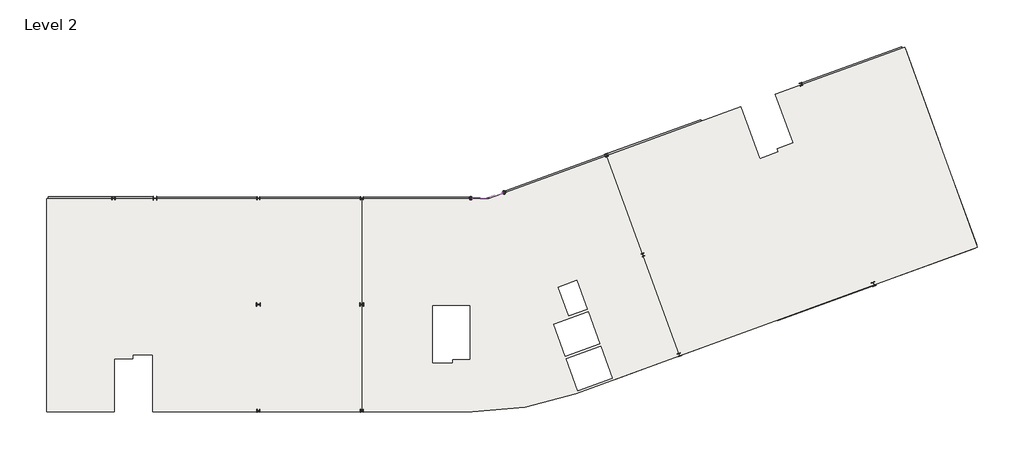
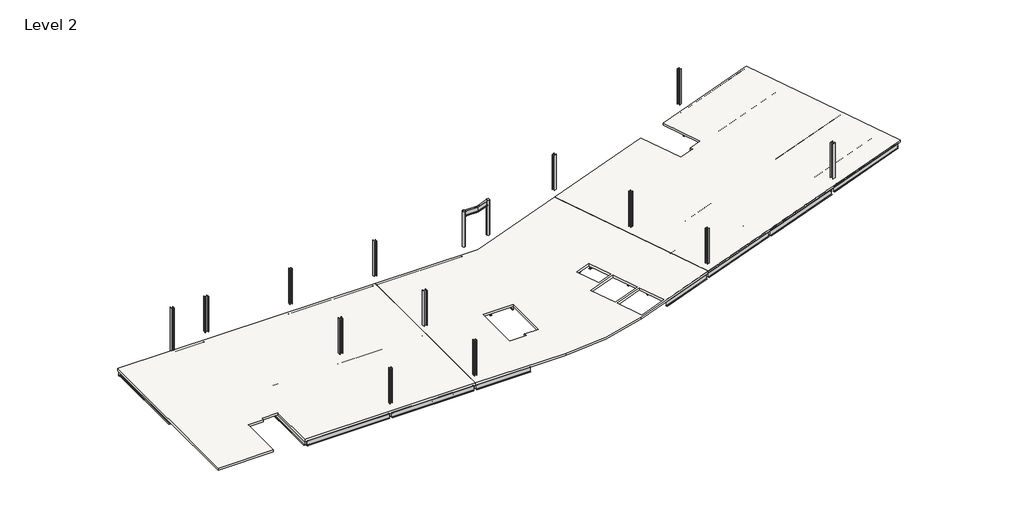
# One storey: 87 beams, 15 columns, 1 slab.
"""IFC4 building model written with IfcOpenShell, lengths in millimetres."""

from ifc_helpers import new_model, si_unit, point, frame, frame_2d, origin, place, context, project, spatial, polyline, circle_curve, trimmed, segment, composite_curve, outline, extrude, faceted_brep, transform, mapped, element, save
from components import beam_fb4f222d, ub_universal_beams_e915e172, ub_universal_beams_a95554c7, ub_universal_beams_b6dbdd7a, ub_universal_beams_9ada3ad7, ub_universal_beams_885cc86f, ub_universal_beams_c84566a2, ub_universal_beams_4841b023, ub_universal_beams_20791346, ub_universal_beams_18d3feb0, ub_universal_beams_59459dd6, ub_universal_beams_568b5c51, ub_universal_beams_e00400c9, ub_universal_beams_f823aa85, ub_universal_beams_cdbcbb51, ub_universal_beams_2db27d90, ub_universal_beams_feb0265b, ub_universal_beams_78ad538f, ub_universal_beams_801fcbf0, ub_universal_beams_7192e0ee, ub_universal_beams_e0a47d06, ub_universal_beams_f5dc209c, ub_universal_beams_f862a4b8, ub_universal_beams_0fc11a2d, ub_universal_beams_656765b2, ub_universal_beams_21f5ef47, ub_universal_beams_7b4bcd9a, ub_universal_beams_8d1efc97, ub_universal_beams_2b7a043a, ub_universal_beams_8d2b0bf5, ub_universal_beams_37de3949, ub_universal_beams_43212cfb, ub_universal_beams_777f85ab, ub_universal_beams_8ec85ef7, ub_universal_beams_16a75a32, ub_universal_beams_b9a7bbe5, ub_universal_beams_60794b88, ub_universal_beams_0c249d50, ub_universal_beams_892b370d, ub_universal_beams_25e113f4, ub_universal_beams_813faa96, ub_universal_beams_bf94d013, ub_universal_beams_c91190e6, column_55d45f16, uc_universal_columns_column_67913ea7, uc_universal_columns_column_df0e8a14

model = new_model("IFC4")

# Units and contexts
model_context = context("Model", 3, world=origin())
ifc_project = project(units=[si_unit("LENGTHUNIT", "METRE", prefix="MILLI")], contexts=[model_context])

# Site, building, storey
site = spatial("IfcSite", under=ifc_project)
building = spatial("IfcBuilding", under=site)
storey = spatial("IfcBuildingStorey", under=building, Name="Level 2", Elevation=7595.0)

# Beams
placement = place(None, origin())
beam_shape = beam_fb4f222d(model_context)
element("IfcBeam", 1, ObjectType="Cranked Beam B3 : Cranked Beam B1", at=placement, inside=storey, context=model_context, shape_type="MappedRepresentation", body=[
    mapped(beam_shape, transform((0.0, 0.0, 0.0), x_axis=(1.0, 0.0, 0.0), y_axis=(0.0, 1.0, 0.0), z_axis=(0.0, 0.0, 1.0))),
])
ub_universal_beams_shape = ub_universal_beams_e915e172(model_context)
element("IfcBeam", 2, ObjectType="UB-Universal Beams : UB 18\" x 6\" x 2 1/2\"", at=placement, inside=storey, context=model_context, shape_type="MappedRepresentation", body=[
    mapped(ub_universal_beams_shape, transform((11712.2000023, 15363.2000005, 7366.0), x_axis=(1.0, 0.0, 0.0), y_axis=(0.0, 1.0, 0.0), z_axis=(0.0, 0.0, 1.0))),
])
ub_universal_beams_2_shape = ub_universal_beams_a95554c7(model_context)
element("IfcBeam", 3, ObjectType="UB-Universal Beams : UB 18\" x 6\" x 2 1/2\"", at=placement, inside=storey, context=model_context, shape_type="MappedRepresentation", body=[
    mapped(ub_universal_beams_2_shape, transform((19012.2000023, 15363.2000005, 7366.0), x_axis=(1.0, 0.0, 0.0), y_axis=(0.0, 1.0, 0.0), z_axis=(0.0, 0.0, 1.0))),
])
element("IfcBeam", 4, ObjectType="UB-Universal Beams : UB 18\" x 6\" x 2 1/2\"", at=placement, inside=storey, context=model_context, shape_type="MappedRepresentation", body=[
    mapped(ub_universal_beams_2_shape, transform((19012.2000022, 363.2000005, 7366.0), x_axis=(1.0, 0.0, 0.0), y_axis=(0.0, 1.0, 0.0), z_axis=(0.0, 0.0, 1.0))),
])
ub_universal_beams_3_shape = ub_universal_beams_b6dbdd7a(model_context)
element("IfcBeam", 5, ObjectType="UB-Universal Beams : UB 18\" x 6\" x 2 1/2\"", at=placement, inside=storey, context=model_context, shape_type="MappedRepresentation", body=[
    mapped(ub_universal_beams_3_shape, transform((26512.2000022, 15363.2000005, 7366.0), x_axis=(1.0, 0.0, 0.0), y_axis=(0.0, 1.0, 0.0), z_axis=(0.0, 0.0, 1.0))),
])
ub_universal_beams_4_shape = ub_universal_beams_9ada3ad7(model_context)
element("IfcBeam", 6, ObjectType="UB-Universal Beams : UB 18\" x 6\" x 2 1/2\"", at=placement, inside=storey, context=model_context, shape_type="MappedRepresentation", body=[
    mapped(ub_universal_beams_4_shape, transform((11674.7000023, 7863.2000004, 7366.0), x_axis=(-1.0, 0.0, 0.0), y_axis=(0.0, -1.0, 0.0), z_axis=(0.0, 0.0, 1.0))),
])
ub_universal_beams_5_shape = ub_universal_beams_885cc86f(model_context)
element("IfcBeam", 7, ObjectType="UB-Universal Beams : UB 18\" x 6\" x 2 1/2\"", at=placement, inside=storey, context=model_context, shape_type="MappedRepresentation", body=[
    mapped(ub_universal_beams_5_shape, transform((11674.7000023, 363.2000005, 7366.0), x_axis=(-1.0, 0.0, 0.0), y_axis=(0.0, -1.0, 0.0), z_axis=(0.0, 0.0, 1.0))),
])
ub_universal_beams_6_shape = ub_universal_beams_c84566a2(model_context)
element("IfcBeam", 8, ObjectType="UB-Universal Beams : UB 18\" x 6\" x 2 1/2\"", at=placement, inside=storey, context=model_context, shape_type="MappedRepresentation", body=[
    mapped(ub_universal_beams_6_shape, transform((19012.2000023, 7863.2000004, 7366.0), x_axis=(1.0, 0.0, 0.0), y_axis=(0.0, 1.0, 0.0), z_axis=(0.0, 0.0, 1.0))),
])
ub_universal_beams_7_shape = ub_universal_beams_4841b023(model_context)
element("IfcBeam", 9, ObjectType="UB-Universal Beams : UB 18\" x 6\" x 2 1/2\"", at=placement, inside=storey, context=model_context, shape_type="MappedRepresentation", body=[
    mapped(ub_universal_beams_7_shape, transform((25112.2000025, 7863.2000004, 7366.0), x_axis=(1.0, 0.0, 0.0), y_axis=(0.0, 1.0, 0.0), z_axis=(0.0, 0.0, 1.0))),
])
ub_universal_beams_8_shape = ub_universal_beams_20791346(model_context)
element("IfcBeam", 10, ObjectType="UB-Universal Beams : UB 18\" x 6\" x 2 1/2\"", at=placement, inside=storey, context=model_context, shape_type="MappedRepresentation", body=[
    mapped(ub_universal_beams_8_shape, transform((25112.2000025, 363.2000005, 7366.0), x_axis=(1.0, 0.0, 0.0), y_axis=(0.0, 1.0, 0.0), z_axis=(0.0, 0.0, 1.0))),
])
ub_universal_beams_9_shape = ub_universal_beams_18d3feb0(model_context)
element("IfcBeam", 11, ObjectType="UB-Universal Beams : UB 18\" x 6\" x 2 1/2\"", at=placement, inside=storey, context=model_context, shape_type="MappedRepresentation", body=[
    mapped(ub_universal_beams_9_shape, transform((8062.2000022, 11613.2000005, 7366.0), x_axis=(0.0, 1.0, 0.0), y_axis=(-1.0, 0.0, 0.0), z_axis=(0.0, 0.0, 1.0))),
])
ub_universal_beams_10_shape = ub_universal_beams_59459dd6(model_context)
element("IfcBeam", 12, ObjectType="UB-Universal Beams : UB 18\" x 6\" x 2 1/2\"", at=placement, inside=storey, context=model_context, shape_type="MappedRepresentation", body=[
    mapped(ub_universal_beams_10_shape, transform((15362.2000023, 4113.2000005, 7366.0), x_axis=(0.0, 1.0, 0.0), y_axis=(-1.0, 0.0, 0.0), z_axis=(0.0, 0.0, 1.0))),
])
element("IfcBeam", 13, ObjectType="UB-Universal Beams : UB 18\" x 6\" x 2 1/2\"", at=placement, inside=storey, context=model_context, shape_type="MappedRepresentation", body=[
    mapped(ub_universal_beams_10_shape, transform((22662.2000022, 4113.2000005, 7366.0), x_axis=(0.0, 1.0, 0.0), y_axis=(-1.0, 0.0, 0.0), z_axis=(0.0, 0.0, 1.0))),
])
ub_universal_beams_11_shape = ub_universal_beams_568b5c51(model_context)
element("IfcBeam", 14, ObjectType="UB-Universal Beams : UB 18\" x 6\" x 2 1/2\"", at=placement, inside=storey, context=model_context, shape_type="MappedRepresentation", body=[
    mapped(ub_universal_beams_11_shape, transform((15362.2000023, 11613.2000005, 7366.0), x_axis=(0.0, 1.0, 0.0), y_axis=(-1.0, 0.0, 0.0), z_axis=(0.0, 0.0, 1.0))),
])
element("IfcBeam", 15, ObjectType="UB-Universal Beams : UB 18\" x 6\" x 2 1/2\"", at=placement, inside=storey, context=model_context, shape_type="MappedRepresentation", body=[
    mapped(ub_universal_beams_11_shape, transform((22662.2000022, 11613.2000005, 7366.0), x_axis=(0.0, 1.0, 0.0), y_axis=(-1.0, 0.0, 0.0), z_axis=(0.0, 0.0, 1.0))),
])
ub_universal_beams_12_shape = ub_universal_beams_e00400c9(model_context)
element("IfcBeam", 16, ObjectType="UB-Universal Beams : UB 18\" x 6\" x 2 1/2\"", at=placement, inside=storey, context=model_context, shape_type="MappedRepresentation", body=[
    mapped(ub_universal_beams_12_shape, transform((30362.2000022, 11613.2000005, 7366.0), x_axis=(0.0, 1.0, 0.0), y_axis=(-1.0, 0.0, 0.0), z_axis=(0.0, 0.0, 1.0))),
])
ub_universal_beams_13_shape = ub_universal_beams_f823aa85(model_context)
element("IfcBeam", 17, ObjectType="UB-Universal Beams : UB 12\" x 5\" x 1 1/2\"", at=placement, inside=storey, context=model_context, shape_type="MappedRepresentation", body=[
    mapped(ub_universal_beams_13_shape, transform((9887.2000022, 11613.2000005, 7442.8), x_axis=(0.0, 1.0, 0.0), y_axis=(-1.0, 0.0, 0.0), z_axis=(0.0, 0.0, 1.0))),
])
element("IfcBeam", 18, ObjectType="UB-Universal Beams : UB 12\" x 5\" x 1 1/2\"", at=placement, inside=storey, context=model_context, shape_type="MappedRepresentation", body=[
    mapped(ub_universal_beams_13_shape, transform((11712.2000022, 11613.2000005, 7442.8), x_axis=(0.0, 1.0, 0.0), y_axis=(-1.0, 0.0, 0.0), z_axis=(0.0, 0.0, 1.0))),
])
element("IfcBeam", 19, ObjectType="UB-Universal Beams : UB 12\" x 5\" x 1 1/2\"", at=placement, inside=storey, context=model_context, shape_type="MappedRepresentation", body=[
    mapped(ub_universal_beams_13_shape, transform((13537.2000023, 11613.2000005, 7442.8), x_axis=(0.0, 1.0, 0.0), y_axis=(-1.0, 0.0, 0.0), z_axis=(0.0, 0.0, 1.0))),
])
element("IfcBeam", 20, ObjectType="UB-Universal Beams : UB 12\" x 5\" x 1 1/2\"", at=placement, inside=storey, context=model_context, shape_type="MappedRepresentation", body=[
    mapped(ub_universal_beams_13_shape, transform((17187.2000023, 11613.2000005, 7442.8), x_axis=(0.0, 1.0, 0.0), y_axis=(-1.0, 0.0, 0.0), z_axis=(0.0, 0.0, 1.0))),
])
element("IfcBeam", 21, ObjectType="UB-Universal Beams : UB 12\" x 5\" x 1 1/2\"", at=placement, inside=storey, context=model_context, shape_type="MappedRepresentation", body=[
    mapped(ub_universal_beams_13_shape, transform((19012.2000023, 11613.2000005, 7442.8), x_axis=(0.0, 1.0, 0.0), y_axis=(-1.0, 0.0, 0.0), z_axis=(0.0, 0.0, 1.0))),
])
element("IfcBeam", 22, ObjectType="UB-Universal Beams : UB 12\" x 5\" x 1 1/2\"", at=placement, inside=storey, context=model_context, shape_type="MappedRepresentation", body=[
    mapped(ub_universal_beams_13_shape, transform((20837.2000022, 11613.2000005, 7442.8), x_axis=(0.0, 1.0, 0.0), y_axis=(-1.0, 0.0, 0.0), z_axis=(0.0, 0.0, 1.0))),
])
element("IfcBeam", 23, ObjectType="UB-Universal Beams : UB 12\" x 5\" x 1 1/2\"", at=placement, inside=storey, context=model_context, shape_type="MappedRepresentation", body=[
    mapped(ub_universal_beams_13_shape, transform((24587.2000022, 11613.2000005, 7442.8), x_axis=(0.0, 1.0, 0.0), y_axis=(-1.0, 0.0, 0.0), z_axis=(0.0, 0.0, 1.0))),
])
element("IfcBeam", 24, ObjectType="UB-Universal Beams : UB 12\" x 5\" x 1 1/2\"", at=placement, inside=storey, context=model_context, shape_type="MappedRepresentation", body=[
    mapped(ub_universal_beams_13_shape, transform((26512.2000022, 11613.2000005, 7442.8), x_axis=(0.0, 1.0, 0.0), y_axis=(-1.0, 0.0, 0.0), z_axis=(0.0, 0.0, 1.0))),
])
element("IfcBeam", 25, ObjectType="UB-Universal Beams : UB 12\" x 5\" x 1 1/2\"", at=placement, inside=storey, context=model_context, shape_type="MappedRepresentation", body=[
    mapped(ub_universal_beams_13_shape, transform((17187.2000022, 4113.2000005, 7442.8), x_axis=(0.0, 1.0, 0.0), y_axis=(-1.0, 0.0, 0.0), z_axis=(0.0, 0.0, 1.0))),
])
element("IfcBeam", 26, ObjectType="UB-Universal Beams : UB 12\" x 5\" x 1 1/2\"", at=placement, inside=storey, context=model_context, shape_type="MappedRepresentation", body=[
    mapped(ub_universal_beams_13_shape, transform((19012.2000022, 4113.2000005, 7442.8), x_axis=(0.0, 1.0, 0.0), y_axis=(-1.0, 0.0, 0.0), z_axis=(0.0, 0.0, 1.0))),
])
element("IfcBeam", 27, ObjectType="UB-Universal Beams : UB 12\" x 5\" x 1 1/2\"", at=placement, inside=storey, context=model_context, shape_type="MappedRepresentation", body=[
    mapped(ub_universal_beams_13_shape, transform((20837.2000022, 4113.2000005, 7442.8), x_axis=(0.0, 1.0, 0.0), y_axis=(-1.0, 0.0, 0.0), z_axis=(0.0, 0.0, 1.0))),
])
element("IfcBeam", 28, ObjectType="UB-Universal Beams : UB 12\" x 5\" x 1 1/2\"", at=placement, inside=storey, context=model_context, shape_type="MappedRepresentation", body=[
    mapped(ub_universal_beams_13_shape, transform((24587.2000022, 4113.2000004, 7442.8), x_axis=(0.0, 1.0, 0.0), y_axis=(-1.0, 0.0, 0.0), z_axis=(0.0, 0.0, 1.0))),
])
element("IfcBeam", 29, ObjectType="UB-Universal Beams : UB 12\" x 5\" x 1 1/2\"", at=placement, inside=storey, context=model_context, shape_type="MappedRepresentation", body=[
    mapped(ub_universal_beams_13_shape, transform((26512.2000022, 4113.2000004, 7442.8), x_axis=(0.0, 1.0, 0.0), y_axis=(-1.0, 0.0, 0.0), z_axis=(0.0, 0.0, 1.0))),
])
element("IfcBeam", 30, ObjectType="UB-Universal Beams : UB 12\" x 5\" x 1 1/2\"", at=placement, inside=storey, context=model_context, shape_type="MappedRepresentation", body=[
    mapped(ub_universal_beams_13_shape, transform((39409.0148654, 14226.6858637, 7442.8), x_axis=(0.34202014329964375, -0.9396926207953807, 0.0), y_axis=(0.9396926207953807, 0.34202014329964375, 0.0), z_axis=(0.0, 0.0, 1.0))),
])
element("IfcBeam", 31, ObjectType="UB-Universal Beams : UB 12\" x 5\" x 1 1/2\"", at=placement, inside=storey, context=model_context, shape_type="MappedRepresentation", body=[
    mapped(ub_universal_beams_13_shape, transform((37600.1065704, 13568.2970878, 7442.8), x_axis=(0.34202014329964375, -0.9396926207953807, 0.0), y_axis=(0.9396926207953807, 0.34202014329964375, 0.0), z_axis=(0.0, 0.0, 1.0))),
])
element("IfcBeam", 32, ObjectType="UB-Universal Beams : UB 12\" x 5\" x 1 1/2\"", at=placement, inside=storey, context=model_context, shape_type="MappedRepresentation", body=[
    mapped(ub_universal_beams_13_shape, transform((42915.2429568, 15502.8485233, 7442.8), x_axis=(-0.3420201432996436, 0.9396926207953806, 0.0), y_axis=(-0.9396926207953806, -0.3420201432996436, 0.0), z_axis=(0.0, 0.0, 1.0))),
])
element("IfcBeam", 33, ObjectType="UB-Universal Beams : UB 12\" x 5\" x 1 1/2\"", at=placement, inside=storey, context=model_context, shape_type="MappedRepresentation", body=[
    mapped(ub_universal_beams_13_shape, transform((44612.5627531, 16120.6224071, 7442.8), x_axis=(-0.34202014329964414, 0.9396926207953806, 0.0), y_axis=(-0.9396926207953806, -0.34202014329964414, 0.0), z_axis=(0.0, 0.0, 1.0))),
])
element("IfcBeam", 34, ObjectType="UB-Universal Beams : UB 12\" x 5\" x 1 1/2\"", at=placement, inside=storey, context=model_context, shape_type="MappedRepresentation", body=[
    mapped(ub_universal_beams_13_shape, transform((46309.8825494, 16738.396291, 7442.8), x_axis=(-0.34202014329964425, 0.9396926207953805, 0.0), y_axis=(-0.9396926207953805, -0.34202014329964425, 0.0), z_axis=(0.0, 0.0, 1.0))),
])
ub_universal_beams_14_shape = ub_universal_beams_cdbcbb51(model_context)
element("IfcBeam", 35, ObjectType="UB-Universal Beams : UB 12\" x 5\" x 1 1/2\"", at=placement, inside=storey, context=model_context, shape_type="MappedRepresentation", body=[
    mapped(ub_universal_beams_14_shape, transform((28437.2000022, 11613.2000005, 7442.8), x_axis=(0.0, 1.0, 0.0), y_axis=(-1.0, 0.0, 0.0), z_axis=(0.0, 0.0, 1.0))),
])
ub_universal_beams_15_shape = ub_universal_beams_2db27d90(model_context)
element("IfcBeam", 36, ObjectType="UB-Universal Beams : UB 18\" x 6\" x 2 1/2\"", at=placement, inside=storey, context=model_context, shape_type="MappedRepresentation", body=[
    mapped(ub_universal_beams_15_shape, transform((33982.2899804, 12251.5195361, 7366.0), x_axis=(0.3420201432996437, -0.9396926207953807, 0.0), y_axis=(0.9396926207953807, 0.3420201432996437, 0.0), z_axis=(0.0, 0.0, 1.0))),
])
ub_universal_beams_16_shape = ub_universal_beams_feb0265b(model_context)
element("IfcBeam", 37, ObjectType="UB-Universal Beams : UB 18\" x 6\" x 2 1/2\"", at=placement, inside=storey, context=model_context, shape_type="MappedRepresentation", body=[
    mapped(ub_universal_beams_16_shape, transform((32191.7898055, 11821.5156209, 7366.0), x_axis=(0.173648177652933, -0.9848077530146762, 0.0), y_axis=(0.9848077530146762, 0.173648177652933, 0.0), z_axis=(0.0, 0.0, 1.0))),
])
ub_universal_beams_17_shape = ub_universal_beams_78ad538f(model_context)
element("IfcBeam", 38, ObjectType="UB-Universal Beams : UB 18\" x 6\" x 2 1/2\"", at=placement, inside=storey, context=model_context, shape_type="MappedRepresentation", body=[
    mapped(ub_universal_beams_17_shape, transform((31317.5755278, 11361.2273115, 7366.0), x_axis=(1.0, 0.0, 0.0), y_axis=(0.0, 1.0, 0.0), z_axis=(0.0, 0.0, 1.0))),
])
ub_universal_beams_18_shape = ub_universal_beams_801fcbf0(model_context)
element("IfcBeam", 39, ObjectType="UB-Universal Beams : UB 18\" x 6\" x 2 1/2\"", at=placement, inside=storey, context=model_context, shape_type="MappedRepresentation", body=[
    mapped(ub_universal_beams_18_shape, transform((33170.7103845, 11687.9849855, 7366.0), x_axis=(0.9396926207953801, 0.3420201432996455, 0.0), y_axis=(-0.3420201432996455, 0.9396926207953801, 0.0), z_axis=(0.0, 0.0, 1.0))),
])
ub_universal_beams_19_shape = ub_universal_beams_7192e0ee(model_context)
element("IfcBeam", 40, ObjectType="UB-Universal Beams : UB 18\" x 6\" x 2 1/2\"", at=placement, inside=storey, context=model_context, shape_type="MappedRepresentation", body=[
    mapped(ub_universal_beams_19_shape, transform((43329.9872158, 19644.4697351, 7366.0), x_axis=(0.9396926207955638, 0.3420201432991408, 0.0), y_axis=(-0.3420201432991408, 0.9396926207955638, 0.0), z_axis=(0.0, 0.0, 1.0))),
])
element("IfcBeam", 41, ObjectType="UB-Universal Beams : UB 18\" x 6\" x 2 1/2\"", at=placement, inside=storey, context=model_context, shape_type="MappedRepresentation", body=[
    mapped(ub_universal_beams_19_shape, transform((45895.1382905, 12596.7750792, 7366.0), x_axis=(0.9396926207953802, 0.34202014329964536, 0.0), y_axis=(-0.34202014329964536, 0.9396926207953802, 0.0), z_axis=(0.0, 0.0, 1.0))),
])
element("IfcBeam", 42, ObjectType="UB-Universal Beams : UB 18\" x 6\" x 2 1/2\"", at=placement, inside=storey, context=model_context, shape_type="MappedRepresentation", body=[
    mapped(ub_universal_beams_19_shape, transform((48460.2893652, 5549.0804232, 7366.0), x_axis=(0.9396926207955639, 0.3420201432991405, 0.0), y_axis=(-0.3420201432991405, 0.9396926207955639, 0.0), z_axis=(0.0, 0.0, 1.0))),
])
ub_universal_beams_20_shape = ub_universal_beams_e0a47d06(model_context)
element("IfcBeam", 43, ObjectType="UB-Universal Beams : UB 18\" x 6\" x 2 1/2\"", at=placement, inside=storey, context=model_context, shape_type="MappedRepresentation", body=[
    mapped(ub_universal_beams_20_shape, transform((40198.2517768, 10523.2779603, 7366.0), x_axis=(0.9396926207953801, 0.34202014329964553, 0.0), y_axis=(-0.34202014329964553, 0.9396926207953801, 0.0), z_axis=(0.0, 0.0, 1.0))),
])
ub_universal_beams_21_shape = ub_universal_beams_f5dc209c(model_context)
element("IfcBeam", 44, ObjectType="UB-Universal Beams : UB 18\" x 6\" x 2 1/2\"", at=placement, inside=storey, context=model_context, shape_type="MappedRepresentation", body=[
    mapped(ub_universal_beams_21_shape, transform((41217.9231605, 14885.0746394, 7366.0), x_axis=(-0.3420201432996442, 0.9396926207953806, 0.0), y_axis=(-0.9396926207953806, -0.3420201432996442, 0.0), z_axis=(0.0, 0.0, 1.0))),
])
element("IfcBeam", 45, ObjectType="UB-Universal Beams : UB 18\" x 6\" x 2 1/2\"", at=placement, inside=storey, context=model_context, shape_type="MappedRepresentation", body=[
    mapped(ub_universal_beams_21_shape, transform((43783.0742352, 7837.3799835, 7366.0), x_axis=(-0.3420201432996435, 0.939692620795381, 0.0), y_axis=(-0.939692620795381, -0.3420201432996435, 0.0), z_axis=(0.0, 0.0, 1.0))),
])
ub_universal_beams_22_shape = ub_universal_beams_f862a4b8(model_context)
element("IfcBeam", 46, ObjectType="UB-Universal Beams : UB 18\" x 6\" x 2 1/2\"", at=placement, inside=storey, context=model_context, shape_type="MappedRepresentation", body=[
    mapped(ub_universal_beams_22_shape, transform((42763.4028515, 3475.5833044, 7366.0), x_axis=(-0.9396926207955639, -0.34202014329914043, 0.0), y_axis=(0.34202014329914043, -0.9396926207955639, 0.0), z_axis=(0.0, 0.0, 1.0))),
])
ub_universal_beams_23_shape = ub_universal_beams_0fc11a2d(model_context)
element("IfcBeam", 47, ObjectType="UB-Universal Beams : UB 20 1/2\" x 8 1/2\" x 3 1/2\"", at=placement, inside=storey, context=model_context, shape_type="MappedRepresentation", body=[
    mapped(ub_universal_beams_23_shape, transform((55320.045497, 8045.8274693, 7330.85), x_axis=(0.9396926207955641, 0.3420201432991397, 0.0), y_axis=(-0.3420201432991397, 0.9396926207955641, 0.0), z_axis=(0.0, 0.0, 1.0))),
])
ub_universal_beams_24_shape = ub_universal_beams_656765b2(model_context)
element("IfcBeam", 48, ObjectType="UB-Universal Beams : UB 18\" x 6\" x 2 1/2\"", at=placement, inside=storey, context=model_context, shape_type="MappedRepresentation", body=[
    mapped(ub_universal_beams_24_shape, transform((62402.9786263, 10623.8042994, 7366.0), x_axis=(0.9396926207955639, 0.34202014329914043, 0.0), y_axis=(-0.34202014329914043, 0.9396926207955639, 0.0), z_axis=(0.0, 0.0, 1.0))),
])
element("IfcBeam", 49, ObjectType="UB-Universal Beams : UB 18\" x 6\" x 2 1/2\"", at=placement, inside=storey, context=model_context, shape_type="MappedRepresentation", body=[
    mapped(ub_universal_beams_21_shape, transform((64738.219679, 15464.4291791, 7366.0), x_axis=(-0.34202014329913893, 0.9396926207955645, 0.0), y_axis=(-0.9396926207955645, -0.34202014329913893, 0.0), z_axis=(0.0, 0.0, 1.0))),
])
element("IfcBeam", 50, ObjectType="UB-Universal Beams : UB 18\" x 6\" x 2 1/2\"", at=placement, inside=storey, context=model_context, shape_type="MappedRepresentation", body=[
    mapped(ub_universal_beams_21_shape, transform((62173.0686043, 22512.123835, 7366.0), x_axis=(-0.3420201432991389, 0.9396926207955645, 0.0), y_axis=(-0.9396926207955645, -0.3420201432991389, 0.0), z_axis=(0.0, 0.0, 1.0))),
])
ub_universal_beams_25_shape = ub_universal_beams_21f5ef47(model_context)
element("IfcBeam", 51, ObjectType="UB-Universal Beams : UB 18\" x 6\" x 2 1/2\"", at=placement, inside=storey, context=model_context, shape_type="MappedRepresentation", body=[
    mapped(ub_universal_beams_25_shape, transform((57272.6764768, 24719.1936113, 7366.0), x_axis=(-0.9396926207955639, -0.3420201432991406, 0.0), y_axis=(0.3420201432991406, -0.9396926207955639, 0.0), z_axis=(0.0, 0.0, 1.0))),
])
ub_universal_beams_26_shape = ub_universal_beams_7b4bcd9a(model_context)
element("IfcBeam", 52, ObjectType="UB-Universal Beams : UB 18\" x 6\" x 2 1/2\"", at=placement, inside=storey, context=model_context, shape_type="MappedRepresentation", body=[
    mapped(ub_universal_beams_26_shape, transform((54937.4354241, 19878.5687316, 7366.0), x_axis=(-0.3420201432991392, 0.9396926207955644, 0.0), y_axis=(-0.9396926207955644, -0.3420201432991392, 0.0), z_axis=(0.0, 0.0, 1.0))),
])
ub_universal_beams_27_shape = ub_universal_beams_8d1efc97(model_context)
element("IfcBeam", 53, ObjectType="UB-Universal Beams : UB 12\" x 5\" x 1 1/2\"", at=placement, inside=storey, context=model_context, shape_type="MappedRepresentation", body=[
    mapped(ub_universal_beams_27_shape, transform((35791.1982754, 12909.908312, 7442.8), x_axis=(0.3420201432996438, -0.9396926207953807, 0.0), y_axis=(0.9396926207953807, 0.3420201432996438, 0.0), z_axis=(0.0, 0.0, 1.0))),
])
ub_universal_beams_28_shape = ub_universal_beams_2b7a043a(model_context)
element("IfcBeam", 54, ObjectType="UB-Universal Beams : UB 12\" x 5\" x 1 1/2\"", at=placement, inside=storey, context=model_context, shape_type="MappedRepresentation", body=[
    mapped(ub_universal_beams_28_shape, transform((42122.1150828, 5237.5069684, 7442.8), x_axis=(-0.939692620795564, -0.3420201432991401, 0.0), y_axis=(0.3420201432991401, -0.939692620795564, 0.0), z_axis=(0.0, 0.0, 1.0))),
])
element("IfcBeam", 55, ObjectType="UB-Universal Beams : UB 12\" x 5\" x 1 1/2\"", at=placement, inside=storey, context=model_context, shape_type="MappedRepresentation", body=[
    mapped(ub_universal_beams_28_shape, transform((41480.8273141, 6999.4306323, 7442.8), x_axis=(-0.9396926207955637, -0.3420201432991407, 0.0), y_axis=(0.3420201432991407, -0.9396926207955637, 0.0), z_axis=(0.0, 0.0, 1.0))),
])
element("IfcBeam", 56, ObjectType="UB-Universal Beams : UB 12\" x 5\" x 1 1/2\"", at=placement, inside=storey, context=model_context, shape_type="MappedRepresentation", body=[
    mapped(ub_universal_beams_28_shape, transform((40839.5395455, 8761.3542963, 7442.8), x_axis=(-0.939692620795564, -0.3420201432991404, 0.0), y_axis=(0.3420201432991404, -0.939692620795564, 0.0), z_axis=(0.0, 0.0, 1.0))),
])
ub_universal_beams_29_shape = ub_universal_beams_8d2b0bf5(model_context)
element("IfcBeam", 57, ObjectType="UB-Universal Beams : UB 12\" x 5\" x 1 1/2\"", at=placement, inside=storey, context=model_context, shape_type="MappedRepresentation", body=[
    mapped(ub_universal_beams_29_shape, transform((46536.4260592, 10834.8514152, 7442.8), x_axis=(0.9396926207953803, 0.342020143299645, 0.0), y_axis=(-0.342020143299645, 0.9396926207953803, 0.0), z_axis=(0.0, 0.0, 1.0))),
])
element("IfcBeam", 58, ObjectType="UB-Universal Beams : UB 12\" x 5\" x 1 1/2\"", at=placement, inside=storey, context=model_context, shape_type="MappedRepresentation", body=[
    mapped(ub_universal_beams_29_shape, transform((47177.7138279, 9072.9277512, 7442.8), x_axis=(0.9396926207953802, 0.34202014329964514, 0.0), y_axis=(-0.34202014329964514, 0.9396926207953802, 0.0), z_axis=(0.0, 0.0, 1.0))),
])
element("IfcBeam", 59, ObjectType="UB-Universal Beams : UB 12\" x 5\" x 1 1/2\"", at=placement, inside=storey, context=model_context, shape_type="MappedRepresentation", body=[
    mapped(ub_universal_beams_29_shape, transform((47819.0015966, 7311.0040872, 7442.8), x_axis=(0.9396926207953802, 0.3420201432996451, 0.0), y_axis=(-0.3420201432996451, 0.9396926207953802, 0.0), z_axis=(0.0, 0.0, 1.0))),
])
ub_universal_beams_30_shape = ub_universal_beams_37de3949(model_context)
element("IfcBeam", 60, ObjectType="UB-Universal Beams : UB 18\" x 6\" x 2 1/2\"", at=placement, inside=storey, context=model_context, shape_type="MappedRepresentation", body=[
    mapped(ub_universal_beams_30_shape, transform((59849.5737093, 17675.7742072, 7366.0), x_axis=(0.9396926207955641, 0.3420201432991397, 0.0), y_axis=(-0.3420201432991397, 0.9396926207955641, 0.0), z_axis=(0.0, 0.0, 1.0))),
])
ub_universal_beams_31_shape = ub_universal_beams_43212cfb(model_context)
element("IfcBeam", 61, ObjectType="UB-Universal Beams : UB 18\" x 6\" x 2 1/2\"", at=placement, inside=storey, context=model_context, shape_type="MappedRepresentation", body=[
    mapped(ub_universal_beams_31_shape, transform((57502.5864988, 12830.8740757, 7366.0), x_axis=(0.3420201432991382, -0.9396926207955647, 0.0), y_axis=(0.9396926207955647, 0.3420201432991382, 0.0), z_axis=(0.0, 0.0, 1.0))),
])
ub_universal_beams_32_shape = ub_universal_beams_777f85ab(model_context)
element("IfcBeam", 62, ObjectType="UB-Universal Beams : UB 12\" x 5\" x 1 1/2\"", at=placement, inside=storey, context=model_context, shape_type="MappedRepresentation", body=[
    mapped(ub_universal_beams_32_shape, transform((60479.1153202, 15909.5752914, 7442.8), x_axis=(0.9396926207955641, 0.34202014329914, 0.0), y_axis=(-0.34202014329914, 0.9396926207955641, 0.0), z_axis=(0.0, 0.0, 1.0))),
])
element("IfcBeam", 63, ObjectType="UB-Universal Beams : UB 12\" x 5\" x 1 1/2\"", at=placement, inside=storey, context=model_context, shape_type="MappedRepresentation", body=[
    mapped(ub_universal_beams_32_shape, transform((61120.4030889, 14147.6516274, 7442.8), x_axis=(0.9396926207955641, 0.34202014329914, 0.0), y_axis=(-0.34202014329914, 0.9396926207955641, 0.0), z_axis=(0.0, 0.0, 1.0))),
])
element("IfcBeam", 64, ObjectType="UB-Universal Beams : UB 12\" x 5\" x 1 1/2\"", at=placement, inside=storey, context=model_context, shape_type="MappedRepresentation", body=[
    mapped(ub_universal_beams_32_shape, transform((61761.6908576, 12385.7279634, 7442.8), x_axis=(0.9396926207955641, 0.3420201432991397, 0.0), y_axis=(-0.3420201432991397, 0.9396926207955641, 0.0), z_axis=(0.0, 0.0, 1.0))),
])
element("IfcBeam", 65, ObjectType="UB-Universal Beams : UB 12\" x 5\" x 1 1/2\"", at=placement, inside=storey, context=model_context, shape_type="MappedRepresentation", body=[
    mapped(ub_universal_beams_32_shape, transform((57913.9642455, 22957.2699473, 7442.8), x_axis=(0.9396926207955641, 0.3420201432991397, 0.0), y_axis=(-0.3420201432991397, 0.9396926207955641, 0.0), z_axis=(0.0, 0.0, 1.0))),
])
element("IfcBeam", 66, ObjectType="UB-Universal Beams : UB 12\" x 5\" x 1 1/2\"", at=placement, inside=storey, context=model_context, shape_type="MappedRepresentation", body=[
    mapped(ub_universal_beams_32_shape, transform((58555.2520142, 21195.3462833, 7442.8), x_axis=(0.9396926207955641, 0.3420201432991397, 0.0), y_axis=(-0.3420201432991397, 0.9396926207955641, 0.0), z_axis=(0.0, 0.0, 1.0))),
])
element("IfcBeam", 67, ObjectType="UB-Universal Beams : UB 12\" x 5\" x 1 1/2\"", at=placement, inside=storey, context=model_context, shape_type="MappedRepresentation", body=[
    mapped(ub_universal_beams_32_shape, transform((59196.5397829, 19433.4226193, 7442.8), x_axis=(0.9396926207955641, 0.3420201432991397, 0.0), y_axis=(-0.3420201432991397, 0.9396926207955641, 0.0), z_axis=(0.0, 0.0, 1.0))),
])
ub_universal_beams_33_shape = ub_universal_beams_8ec85ef7(model_context)
element("IfcBeam", 68, ObjectType="UB-Universal Beams : UB 20 1/2\" x 8 1/2\" x 3 1/2\"", at=placement, inside=storey, context=model_context, shape_type="MappedRepresentation", body=[
    mapped(ub_universal_beams_33_shape, transform((54042.3541451, 11665.8982726, 7330.85), x_axis=(-0.34202014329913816, 0.9396926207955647, 0.0), y_axis=(-0.9396926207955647, -0.34202014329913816, 0.0), z_axis=(0.0, 0.0, 1.0))),
])
ub_universal_beams_34_shape = ub_universal_beams_16a75a32(model_context)
element("IfcBeam", 69, ObjectType="UB-Universal Beams : UB 12\" x 5\" x 1 1/2\"", at=placement, inside=storey, context=model_context, shape_type="MappedRepresentation", body=[
    mapped(ub_universal_beams_34_shape, transform((52185.7228693, 11321.365084, 7442.8), x_axis=(0.9396926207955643, 0.3420201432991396, 0.0), y_axis=(-0.3420201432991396, 0.9396926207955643, 0.0), z_axis=(0.0, 0.0, 1.0))),
])
element("IfcBeam", 70, ObjectType="UB-Universal Beams : UB 12\" x 5\" x 1 1/2\"", at=placement, inside=storey, context=model_context, shape_type="MappedRepresentation", body=[
    mapped(ub_universal_beams_34_shape, transform((51681.2431579, 12707.4116997, 7442.8), x_axis=(0.9396926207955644, 0.34202014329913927, 0.0), y_axis=(-0.34202014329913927, 0.9396926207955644, 0.0), z_axis=(0.0, 0.0, 1.0))),
])
ub_universal_beams_35_shape = ub_universal_beams_b9a7bbe5(model_context)
element("IfcBeam", 71, ObjectType="UB-Universal Beams : UB 12\" x 5\" x 1 1/2\"", at=placement, inside=storey, context=model_context, shape_type="MappedRepresentation", body=[
    mapped(ub_universal_beams_35_shape, transform((55650.8394085, 12582.5643624, 7442.8), x_axis=(0.939692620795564, 0.34202014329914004, 0.0), y_axis=(-0.34202014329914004, 0.939692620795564, 0.0), z_axis=(0.0, 0.0, 1.0))),
])
element("IfcBeam", 72, ObjectType="UB-Universal Beams : UB 12\" x 5\" x 1 1/2\"", at=placement, inside=storey, context=model_context, shape_type="MappedRepresentation", body=[
    mapped(ub_universal_beams_35_shape, transform((56300.6776807, 10797.1483829, 7442.8), x_axis=(0.9396926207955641, 0.3420201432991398, 0.0), y_axis=(-0.3420201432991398, 0.9396926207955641, 0.0), z_axis=(0.0, 0.0, 1.0))),
])
element("IfcBeam", 73, ObjectType="UB-Universal Beams : UB 12\" x 5\" x 1 1/2\"", at=placement, inside=storey, context=model_context, shape_type="MappedRepresentation", body=[
    mapped(ub_universal_beams_35_shape, transform((55146.3596971, 13968.6109781, 7442.8), x_axis=(0.9396926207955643, 0.34202014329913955, 0.0), y_axis=(-0.34202014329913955, 0.9396926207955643, 0.0), z_axis=(0.0, 0.0, 1.0))),
])
ub_universal_beams_36_shape = ub_universal_beams_60794b88(model_context)
element("IfcBeam", 74, ObjectType="UB-Universal Beams : UB 12\" x 5\" x 1 1/2\"", at=placement, inside=storey, context=model_context, shape_type="MappedRepresentation", body=[
    mapped(ub_universal_beams_36_shape, transform((53431.3248942, 21325.7226526, 7442.8), x_axis=(-0.939692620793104, -0.34202014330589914, 0.0), y_axis=(0.34202014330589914, -0.939692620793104, 0.0), z_axis=(0.0, 0.0, 1.0))),
])
element("IfcBeam", 75, ObjectType="UB-Universal Beams : UB 12\" x 5\" x 1 1/2\"", at=placement, inside=storey, context=model_context, shape_type="MappedRepresentation", body=[
    mapped(ub_universal_beams_36_shape, transform((54072.6126629, 19563.7989886, 7442.8), x_axis=(-0.939692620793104, -0.3420201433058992, 0.0), y_axis=(0.3420201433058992, -0.939692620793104, 0.0), z_axis=(0.0, 0.0, 1.0))),
])
element("IfcBeam", 76, ObjectType="UB-Universal Beams : UB 12\" x 5\" x 1 1/2\"", at=placement, inside=storey, context=model_context, shape_type="MappedRepresentation", body=[
    mapped(ub_universal_beams_36_shape, transform((54713.9004316, 17801.8753247, 7442.8), x_axis=(-0.939692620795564, -0.34202014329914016, 0.0), y_axis=(0.34202014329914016, -0.939692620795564, 0.0), z_axis=(0.0, 0.0, 1.0))),
])
ub_universal_beams_37_shape = ub_universal_beams_0c249d50(model_context)
element("IfcBeam", 77, ObjectType="UB-Universal Beams : UB 12\" x 5\" x 1 1/2\"", at=placement, inside=storey, context=model_context, shape_type="MappedRepresentation", body=[
    mapped(ub_universal_beams_37_shape, transform((52835.5611416, 9535.9491045, 7442.8), x_axis=(-0.9396926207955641, -0.34202014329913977, 0.0), y_axis=(0.34202014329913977, -0.9396926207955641, 0.0), z_axis=(0.0, 0.0, 1.0))),
])
ub_universal_beams_38_shape = ub_universal_beams_892b370d(model_context)
element("IfcBeam", 78, ObjectType="UB-Universal Beams : UB 20 1/2\" x 8 1/2\" x 3 1/2\"", at=placement, inside=storey, context=model_context, shape_type="MappedRepresentation", body=[
    mapped(ub_universal_beams_38_shape, transform((4212.2000022, 15363.2000005, 7330.85), x_axis=(1.0, 0.0, 0.0), y_axis=(0.0, 1.0, 0.0), z_axis=(0.0, 0.0, 1.0))),
])
ub_universal_beams_39_shape = ub_universal_beams_25e113f4(model_context)
element("IfcBeam", 79, ObjectType="UB-Universal Beams : UB 18\" x 6\" x 2 1/2\"", at=placement, inside=storey, context=model_context, shape_type="MappedRepresentation", body=[
    mapped(ub_universal_beams_39_shape, transform((614.1000027, 11575.7000004, 7366.0), x_axis=(0.0, 1.0, 0.0), y_axis=(-1.0, 0.0, 0.0), z_axis=(0.0, 0.0, 1.0))),
])
element("IfcBeam", 80, ObjectType="UB-Universal Beams : UB 18\" x 6\" x 2 1/2\"", at=placement, inside=storey, context=model_context, shape_type="MappedRepresentation", body=[
    mapped(ub_universal_beams_39_shape, transform((2457.6125027, 11575.7000004, 7366.0), x_axis=(0.0, 1.0, 0.0), y_axis=(-1.0, 0.0, 0.0), z_axis=(0.0, 0.0, 1.0))),
])
element("IfcBeam", 81, ObjectType="UB-Universal Beams : UB 18\" x 6\" x 2 1/2\"", at=placement, inside=storey, context=model_context, shape_type="MappedRepresentation", body=[
    mapped(ub_universal_beams_39_shape, transform((4301.1250026, 11575.7000004, 7366.0), x_axis=(0.0, 1.0, 0.0), y_axis=(-1.0, 0.0, 0.0), z_axis=(0.0, 0.0, 1.0))),
])
element("IfcBeam", 82, ObjectType="UB-Universal Beams : UB 18\" x 6\" x 2 1/2\"", at=placement, inside=storey, context=model_context, shape_type="MappedRepresentation", body=[
    mapped(ub_universal_beams_39_shape, transform((6144.6375025, 11575.7000005, 7366.0), x_axis=(0.0, 1.0, 0.0), y_axis=(-1.0, 0.0, 0.0), z_axis=(0.0, 0.0, 1.0))),
])
ub_universal_beams_40_shape = ub_universal_beams_813faa96(model_context)
element("IfcBeam", 83, ObjectType="UB-Universal Beams : UB 18\" x 6\" x 2 1/2\"", at=placement, inside=storey, context=model_context, shape_type="MappedRepresentation", body=[
    mapped(ub_universal_beams_40_shape, transform((7988.1500025, 7863.2000005, 7366.0), x_axis=(0.0, 1.0, 0.0), y_axis=(-1.0, 0.0, 0.0), z_axis=(0.0, 0.0, 1.0))),
])
ub_universal_beams_41_shape = ub_universal_beams_bf94d013(model_context)
element("IfcBeam", 84, ObjectType="UB-Universal Beams : UB 18\" x 6\" x 2 1/2\"", at=placement, inside=storey, context=model_context, shape_type="MappedRepresentation", body=[
    mapped(ub_universal_beams_41_shape, transform((9831.6625024, 4113.2000005, 7366.0), x_axis=(0.0, 1.0, 0.0), y_axis=(-1.0, 0.0, 0.0), z_axis=(0.0, 0.0, 1.0))),
])
element("IfcBeam", 85, ObjectType="UB-Universal Beams : UB 18\" x 6\" x 2 1/2\"", at=placement, inside=storey, context=model_context, shape_type="MappedRepresentation", body=[
    mapped(ub_universal_beams_41_shape, transform((11675.1750024, 4113.2000005, 7366.0), x_axis=(0.0, 1.0, 0.0), y_axis=(-1.0, 0.0, 0.0), z_axis=(0.0, 0.0, 1.0))),
])
element("IfcBeam", 86, ObjectType="UB-Universal Beams : UB 18\" x 6\" x 2 1/2\"", at=placement, inside=storey, context=model_context, shape_type="MappedRepresentation", body=[
    mapped(ub_universal_beams_41_shape, transform((13518.6875023, 4113.2000005, 7366.0), x_axis=(0.0, 1.0, 0.0), y_axis=(-1.0, 0.0, 0.0), z_axis=(0.0, 0.0, 1.0))),
])
ub_universal_beams_42_shape = ub_universal_beams_c91190e6(model_context)
element("IfcBeam", 87, ObjectType="UB-Universal Beams : UB 18\" x 6\" x 2 1/2\"", at=placement, inside=storey, context=model_context, shape_type="MappedRepresentation", body=[
    mapped(ub_universal_beams_42_shape, transform((36317.5310328, 17092.1444158, 7366.0), x_axis=(0.9396926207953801, 0.3420201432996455, 0.0), y_axis=(-0.3420201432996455, 0.9396926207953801, 0.0), z_axis=(0.0, 0.0, 1.0))),
])

# Columns
column_shape = column_55d45f16(model_context)
element("IfcColumn", 88, ObjectType="Circular Hollow Sections-Column : CHS 9 1/2\" x 1/4\"", at=placement, inside=storey, context=model_context, shape_type="MappedRepresentation", body=[
    mapped(column_shape, transform((30362.2000022, 15363.2000005, 0.0), x_axis=(0.0, 1.0, 0.0), y_axis=(-1.0, 0.0, 0.0), z_axis=(0.0, 0.0, 1.0))),
])
element("IfcColumn", 89, ObjectType="Circular Hollow Sections-Column : CHS 9 1/2\" x 1/4\"", at=placement, inside=storey, context=model_context, shape_type="MappedRepresentation", body=[
    mapped(column_shape, transform((32699.714443, 15775.3668642, 0.0), x_axis=(1.0, 0.0, 0.0), y_axis=(0.0, 1.0, 0.0), z_axis=(0.0, 0.0, 1.0))),
])
element("IfcColumn", 90, ObjectType="UC-Universal Columns-Column : UC 8\" x 8\" x 3\"", at=placement, inside=storey, context=model_context, shape_type="SweptSolid", body=[
    extrude(outline(composite_curve([segment(polyline([(5023.9666692, 15466.4000005), (5041.2666692, 15466.4000005), (5041.2666692, 15378.4000005)]), True, "CONTINUOUS"), segment(trimmed(circle_curve(frame_2d((5051.4666692, 15378.4000005)), 10.2), [point((5041.2666692, 15378.4000005))], [point((5051.4666692, 15368.2000005))], True, "CARTESIAN"), True, "CONTINUOUS"), segment(polyline([(5051.4666692, 15368.2000005), (5212.2666692, 15368.2000005)]), True, "CONTINUOUS"), segment(trimmed(circle_curve(frame_2d((5212.2666692, 15378.4000005)), 10.2), [point((5212.2666692, 15368.2000005))], [point((5222.4666692, 15378.4000005))], True, "CARTESIAN"), True, "CONTINUOUS"), segment(polyline([(5222.4666692, 15378.4000005), (5222.4666692, 15466.4000005), (5239.7666692, 15466.4000005), (5239.7666692, 15260.0000005), (5222.4666692, 15260.0000005), (5222.4666692, 15348.0000005)]), True, "CONTINUOUS"), segment(trimmed(circle_curve(frame_2d((5212.2666692, 15348.0000005)), 10.2), [point((5222.4666692, 15348.0000005))], [point((5212.2666692, 15358.2000005))], True, "CARTESIAN"), True, "CONTINUOUS"), segment(polyline([(5212.2666692, 15358.2000005), (5051.4666692, 15358.2000005)]), True, "CONTINUOUS"), segment(trimmed(circle_curve(frame_2d((5051.4666692, 15348.0000005)), 10.2), [point((5051.4666692, 15358.2000005))], [point((5041.2666692, 15348.0000005))], True, "CARTESIAN"), True, "CONTINUOUS"), segment(polyline([(5041.2666692, 15348.0000005), (5041.2666692, 15260.0000005), (5023.9666692, 15260.0000005), (5023.9666692, 15466.4000005)]), True, "CONTINUOUS")], self_intersect=False)), frame((0.0, 0.0, 7595.0), z_axis=(0.0, 0.0, 1.0), x_axis=(1.0, 0.0, 0.0)), (0.0, 0.0, 1.0), 4105.0),
])
uc_universal_columns_column_shape = uc_universal_columns_column_67913ea7(model_context)
element("IfcColumn", 91, ObjectType="UC-Universal Columns-Column : UC 10\" x 10\" x 5 1/2\"", at=placement, inside=storey, context=model_context, shape_type="MappedRepresentation", body=[
    mapped(uc_universal_columns_column_shape, transform((15362.2000023, 7863.2000004, 0.0), x_axis=(0.0, 1.0, 0.0), y_axis=(-1.0, 0.0, 0.0), z_axis=(0.0, 0.0, 1.0))),
])
element("IfcColumn", 92, ObjectType="UC-Universal Columns-Column : UC 10\" x 10\" x 5 1/2\"", at=placement, inside=storey, context=model_context, shape_type="MappedRepresentation", body=[
    mapped(uc_universal_columns_column_shape, transform((22662.2000022, 7863.2000004, 0.0), x_axis=(0.0, 1.0, 0.0), y_axis=(-1.0, 0.0, 0.0), z_axis=(0.0, 0.0, 1.0))),
])
element("IfcColumn", 93, ObjectType="UC-Universal Columns-Column : UC 10\" x 10\" x 5 1/2\"", at=placement, inside=storey, context=model_context, shape_type="MappedRepresentation", body=[
    mapped(uc_universal_columns_column_shape, transform((8062.2000022, 15363.2000005, 0.0), x_axis=(0.0, 1.0, 0.0), y_axis=(-1.0, 0.0, 0.0), z_axis=(0.0, 0.0, 1.0))),
])
element("IfcColumn", 94, ObjectType="UC-Universal Columns-Column : UC 10\" x 10\" x 5 1/2\"", at=placement, inside=storey, context=model_context, shape_type="MappedRepresentation", body=[
    mapped(uc_universal_columns_column_shape, transform((58785.1620362, 9307.0267477, 0.0), x_axis=(0.9396926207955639, 0.3420201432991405, 0.0), y_axis=(-0.3420201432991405, 0.9396926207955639, 0.0), z_axis=(0.0, 0.0, 1.0))),
])
uc_universal_columns_column_2_shape = uc_universal_columns_column_df0e8a14(model_context)
element("IfcColumn", 95, ObjectType="UC-Universal Columns-Column : UC 8\" x 8\" x 3\"", at=placement, inside=storey, context=model_context, shape_type="MappedRepresentation", body=[
    mapped(uc_universal_columns_column_2_shape, transform((22662.2000023, 15363.2000005, 0.0), x_axis=(0.0, 1.0, 0.0), y_axis=(-1.0, 0.0, 0.0), z_axis=(0.0, 0.0, 1.0))),
])
element("IfcColumn", 96, ObjectType="UC-Universal Columns-Column : UC 8\" x 8\" x 3\"", at=placement, inside=storey, context=model_context, shape_type="MappedRepresentation", body=[
    mapped(uc_universal_columns_column_2_shape, transform((15362.2000023, 15363.2000005, 0.0), x_axis=(0.0, 1.0, 0.0), y_axis=(-1.0, 0.0, 0.0), z_axis=(0.0, 0.0, 1.0))),
])
element("IfcColumn", 97, ObjectType="UC-Universal Columns-Column : UC 8\" x 8\" x 3\"", at=placement, inside=storey, context=model_context, shape_type="MappedRepresentation", body=[
    mapped(uc_universal_columns_column_2_shape, transform((15362.2000023, 363.2000005, 0.0), x_axis=(0.0, 1.0, 0.0), y_axis=(-1.0, 0.0, 0.0), z_axis=(0.0, 0.0, 1.0))),
])
element("IfcColumn", 98, ObjectType="UC-Universal Columns-Column : UC 8\" x 8\" x 3\"", at=placement, inside=storey, context=model_context, shape_type="MappedRepresentation", body=[
    mapped(uc_universal_columns_column_2_shape, transform((22662.2000022, 363.2000005, 0.0), x_axis=(0.0, 1.0, 0.0), y_axis=(-1.0, 0.0, 0.0), z_axis=(0.0, 0.0, 1.0))),
])
element("IfcColumn", 99, ObjectType="UC-Universal Columns-Column : UC 8\" x 8\" x 3\"", at=placement, inside=storey, context=model_context, shape_type="MappedRepresentation", body=[
    mapped(uc_universal_columns_column_2_shape, transform((42500.4986978, 11361.2273115, 0.0), x_axis=(0.9396926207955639, 0.3420201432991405, 0.0), y_axis=(-0.3420201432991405, 0.9396926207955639, 0.0), z_axis=(0.0, 0.0, 1.0))),
])
element("IfcColumn", 100, ObjectType="UC-Universal Columns-Column : UC 8\" x 8\" x 3\"", at=placement, inside=storey, context=model_context, shape_type="MappedRepresentation", body=[
    mapped(uc_universal_columns_column_2_shape, transform((39935.3476231, 18408.9219674, 0.0), x_axis=(0.9396926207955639, 0.3420201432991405, 0.0), y_axis=(-0.3420201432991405, 0.9396926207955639, 0.0), z_axis=(0.0, 0.0, 1.0))),
])
element("IfcColumn", 101, ObjectType="UC-Universal Columns-Column : UC 8\" x 8\" x 3\"", at=placement, inside=storey, context=model_context, shape_type="MappedRepresentation", body=[
    mapped(uc_universal_columns_column_2_shape, transform((53654.8598867, 23402.4160596, 0.0), x_axis=(0.9396926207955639, 0.3420201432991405, 0.0), y_axis=(-0.3420201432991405, 0.9396926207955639, 0.0), z_axis=(0.0, 0.0, 1.0))),
])
element("IfcColumn", 102, ObjectType="UC-Universal Columns-Column : UC 8\" x 8\" x 3\"", at=placement, inside=storey, context=model_context, shape_type="MappedRepresentation", body=[
    mapped(uc_universal_columns_column_2_shape, transform((45065.6497726, 4313.5326555, 0.0), x_axis=(0.939692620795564, 0.3420201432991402, 0.0), y_axis=(-0.3420201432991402, 0.939692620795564, 0.0), z_axis=(0.0, 0.0, 1.0))),
])

# Slab
element("IfcSlab", 103, ObjectType="RC COMP 7\"", at=placement, inside=storey, context=model_context, shape_type="SolidModel", body=[
    extrude(outline(polyline([(39950.6701255, 18366.823738), (49412.7637168, 21810.7441587), (50743.9061145, 18153.4604787), (52050.0788572, 18628.8684778), (51964.5738214, 18863.791633), (53092.2049665, 19274.215805), (51846.5676046, 22696.5763298), (60969.2448211, 26016.9592931), (66109.9443828, 11893.0033256), (45091.3696873, 4242.8677705), (39950.6701255, 18366.823738)])), frame((0.0, 0.0, 7595.0), z_axis=(0.0, 0.0, 1.0), x_axis=(1.0, 0.0, 0.0)), (0.0, 0.0, 1.0), 200.0),
    faceted_brep([(22662.2000022, 288.0, 7595.0), (22662.2000023, 15318.4000005, 7595.0), (22662.2000023, 15318.4000005, 7795.0), (22662.2000022, 288.0, 7795.0), (7887.2000024, 288.0, 7595.0), (7887.2000024, 4300.0, 7595.0), (6497.2000024, 4300.0, 7595.0), (6497.2000024, 4050.0, 7595.0), (5180.4333362, 4050.0, 7595.0), (5180.4333362, 288.0, 7595.0), (408.0, 288.0, 7595.0), (408.0000012, 7688.2000003, 7595.0), (408.0000013, 7888.2000003, 7595.0), (408.0000025, 15318.4000008, 7595.0), (7887.2000024, 288.0, 7795.0), (7887.2000024, 4300.0, 7795.0), (6497.2000024, 4300.0, 7795.0), (6497.2000024, 4050.0, 7795.0), (5180.4333362, 4050.0, 7795.0), (5180.4333362, 288.0, 7795.0), (408.0, 288.0, 7795.0), (408.0000012, 7688.2000003, 7795.0), (408.0000013, 7888.2000003, 7795.0), (408.0000025, 15318.4000008, 7795.0)], [[[0, 1, 2, 3]], [[0, 4, 5, 6, 7, 8, 9, 10, 11, 12, 13, 1]], [[4, 0, 3, 14]], [[5, 4, 14, 15]], [[6, 5, 15, 16]], [[7, 6, 16, 17]], [[8, 7, 17, 18]], [[9, 8, 18, 19]], [[10, 9, 19, 20]], [[11, 10, 20, 21, 22, 23, 13, 12]], [[1, 13, 23, 2]], [[14, 3, 2, 23, 22, 21, 20, 19, 18, 17, 16, 15]]]),
    extrude(outline(composite_curve([segment(polyline([(30462.2000024, 288.0), (22662.2000022, 288.0), (22662.2000023, 15318.4000005), (31575.1947409, 15318.4000004), (39950.6701255, 18366.823738), (45091.3696873, 4242.8677705), (37761.7672424, 1575.1106518)]), True, "CONTINUOUS"), segment(trimmed(circle_curve(frame_2d((30462.2000024, 21630.5068175)), 21342.5068175), [point((37761.7672424, 1575.1106518))], [point((30462.2000024, 288.0))], False, "CARTESIAN"), True, "CONTINUOUS")], self_intersect=False), holes=[polyline([(27662.2000028, 7763.2000004), (27662.2000028, 3763.2000006), (29052.2000029, 3763.2000006), (29052.2000029, 4013.2000006), (30262.2000024, 4013.2000006), (30262.2000024, 7763.2000004), (27662.2000028, 7763.2000004)]), polyline([(37836.2376079, 9557.1573328), (36520.667939, 9078.3291322), (37254.4424652, 7062.3001903), (38570.0121342, 7541.1283909), (37836.2376079, 9557.1573328)]), polyline([(38637.9760474, 7354.3990738), (36194.7752334, 6465.1467012), (37016.0636927, 4208.6752042), (39459.2645067, 5097.9275768), (38637.9760474, 7354.3990738)]), polyline([(39527.6685354, 4909.9890526), (37084.4677213, 4020.73668), (37905.7561806, 1764.2651831), (40348.9569947, 2653.5175556), (39527.6685354, 4909.9890526)])]), frame((0.0, 0.0, 7595.0), z_axis=(0.0, 0.0, 1.0), x_axis=(1.0, 0.0, 0.0)), (0.0, 0.0, 1.0), 200.0),
])

save(model, "model.ifc")
